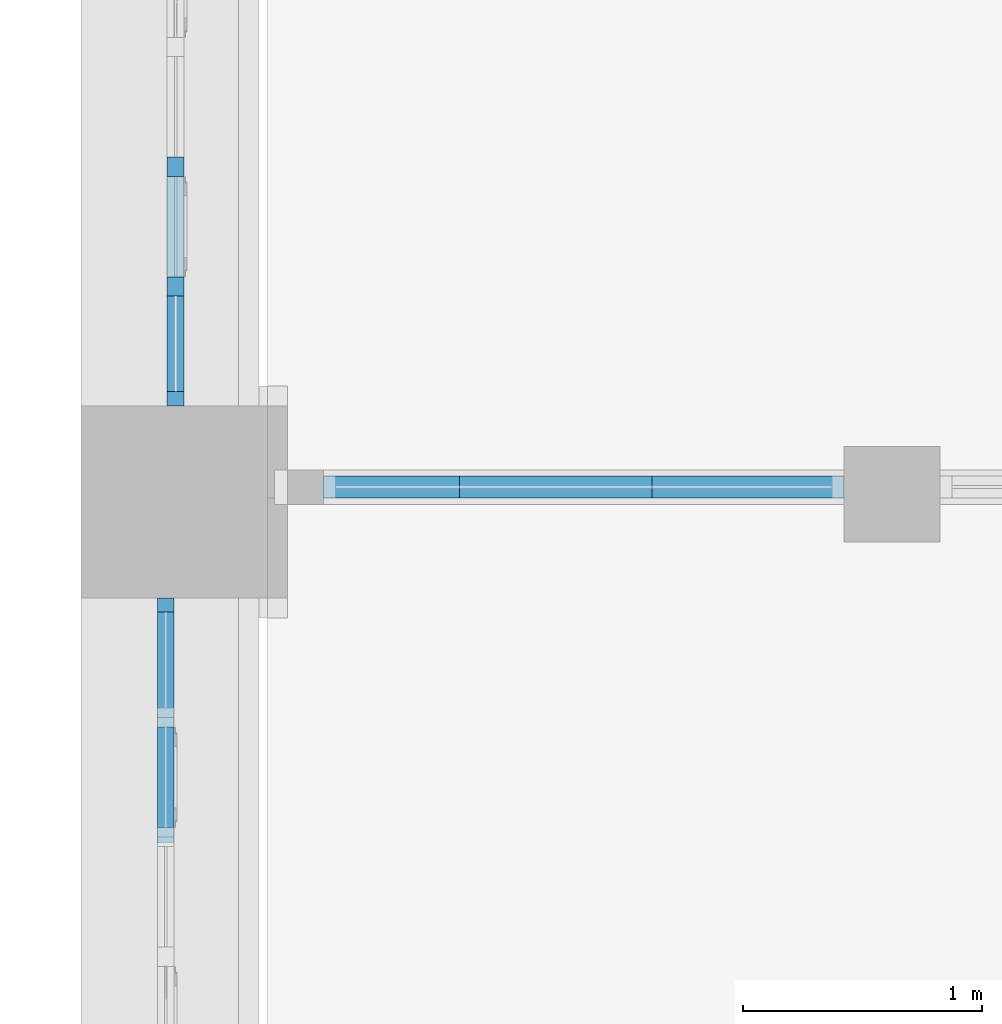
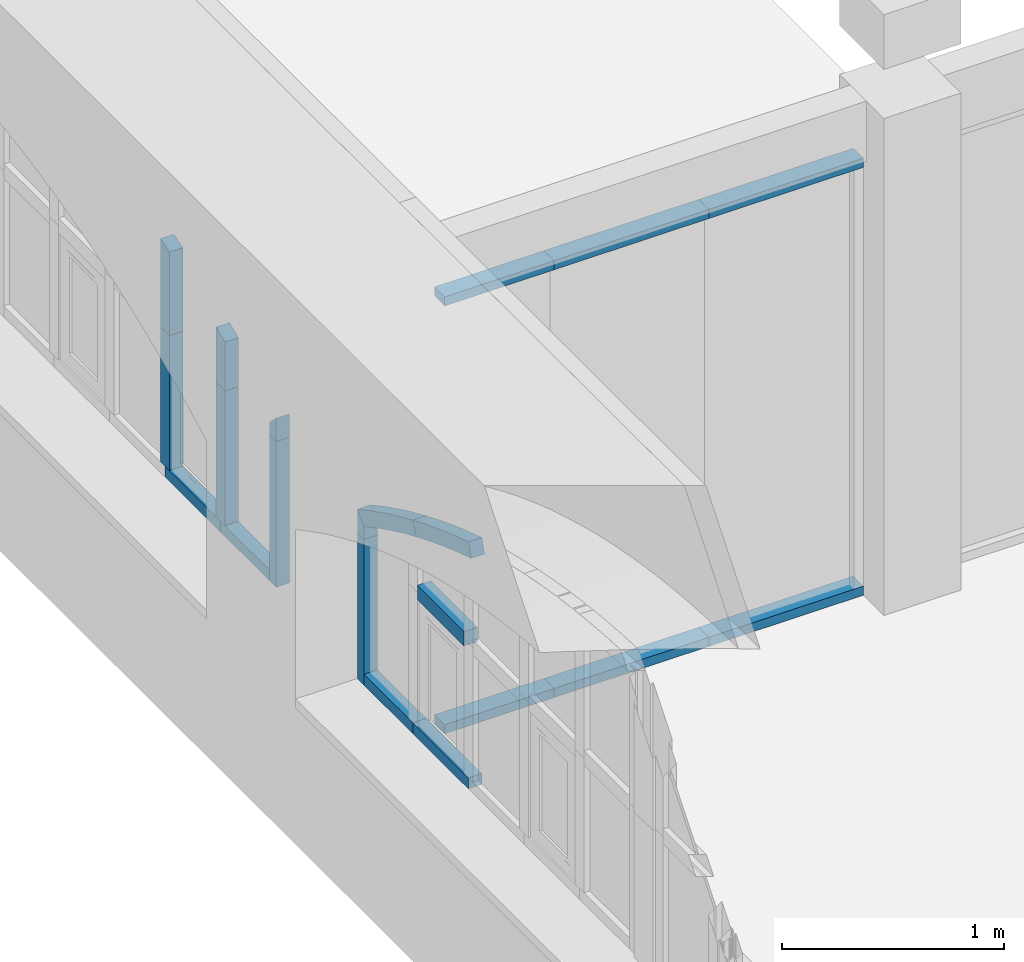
# One storey, part 17 of 32: 21 members, 3 elements without a shape of their own.
"""IFC2X3 building model written with IfcOpenShell, lengths in millimetres."""

from ifc_helpers import new_model, entity, si_unit, converted_unit, derived_unit, direction, frame, frame_2d, origin, place, context, subcontext, project, spatial, polyline, circle_curve, parameter, trimmed, segment, composite_curve, rectangle, outline, extrude, source, transform, mapped, material, type_object, type_shapes, element, aggregate, save


model = new_model("IFC2X3")

# Units and contexts
model_context = context("Model", 3, precision=0.01, world=origin(), true_north=direction((6.123031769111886e-17, 1.0)))
body_context = subcontext(model_context, "Body", "Model", "MODEL_VIEW")
ifc_project = project(units=[si_unit("LENGTHUNIT", "METRE", prefix="MILLI"), si_unit("AREAUNIT", "SQUARE_METRE"), si_unit("VOLUMEUNIT", "CUBIC_METRE"), converted_unit("PLANEANGLEUNIT", "DEGREE", entity("IfcPlaneAngleMeasure", 0.017453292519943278), si_unit("PLANEANGLEUNIT", "RADIAN"), dimensions=[0, 0, 0, 0, 0, 0, 0]), si_unit("MASSUNIT", "GRAM", prefix="KILO"), derived_unit("MASSDENSITYUNIT", [(si_unit("MASSUNIT", "GRAM", prefix="KILO"), 1), (si_unit("LENGTHUNIT", "METRE"), -3)]), derived_unit("IONCONCENTRATIONUNIT", [(si_unit("MASSUNIT", "GRAM", prefix="KILO"), 1), (si_unit("LENGTHUNIT", "METRE"), -3)]), derived_unit("MOMENTOFINERTIAUNIT", [(si_unit("LENGTHUNIT", "METRE"), 4)]), si_unit("TIMEUNIT", "SECOND"), si_unit("FREQUENCYUNIT", "HERTZ"), si_unit("THERMODYNAMICTEMPERATUREUNIT", "DEGREE_CELSIUS"), derived_unit("THERMALTRANSMITTANCEUNIT", [(si_unit("MASSUNIT", "GRAM", prefix="KILO"), 1), (si_unit("THERMODYNAMICTEMPERATUREUNIT", "KELVIN"), -1), (si_unit("TIMEUNIT", "SECOND"), -3)]), derived_unit("THERMALCONDUCTANCEUNIT", [(si_unit("MASSUNIT", "GRAM", prefix="KILO"), 1), (si_unit("THERMODYNAMICTEMPERATUREUNIT", "KELVIN"), -1), (si_unit("TIMEUNIT", "SECOND"), -3), (si_unit("LENGTHUNIT", "METRE"), 1)]), derived_unit("VOLUMETRICFLOWRATEUNIT", [(si_unit("LENGTHUNIT", "METRE", prefix="DECI"), 3), (si_unit("TIMEUNIT", "SECOND"), -1)]), derived_unit("MASSFLOWRATEUNIT", [(si_unit("MASSUNIT", "GRAM", prefix="KILO"), 1), (si_unit("TIMEUNIT", "SECOND"), -1)]), derived_unit("ROTATIONALFREQUENCYUNIT", [(si_unit("TIMEUNIT", "SECOND"), -1)]), si_unit("ELECTRICCURRENTUNIT", "AMPERE"), si_unit("ELECTRICVOLTAGEUNIT", "VOLT"), si_unit("POWERUNIT", "WATT"), si_unit("FORCEUNIT", "NEWTON", prefix="KILO"), si_unit("ILLUMINANCEUNIT", "LUX"), si_unit("LUMINOUSFLUXUNIT", "LUMEN"), si_unit("LUMINOUSINTENSITYUNIT", "CANDELA"), si_unit("ENERGYUNIT", "JOULE"), derived_unit("USERDEFINED", [(si_unit("MASSUNIT", "GRAM", prefix="KILO"), -1), (si_unit("LENGTHUNIT", "METRE"), -2), (si_unit("TIMEUNIT", "SECOND"), 3), (si_unit("LUMINOUSFLUXUNIT", "LUMEN"), 1)]), derived_unit("USERDEFINED", [(si_unit("MASSUNIT", "GRAM", prefix="KILO"), 1), (si_unit("TIMEUNIT", "SECOND"), -3), (si_unit("LENGTHUNIT", "METRE"), 3), (si_unit("ELECTRICCURRENTUNIT", "AMPERE"), -2)]), derived_unit("SOUNDPOWERUNIT", [(si_unit("MASSUNIT", "GRAM", prefix="KILO"), 1), (si_unit("TIMEUNIT", "SECOND"), -3), (si_unit("LENGTHUNIT", "METRE"), 2)]), derived_unit("SOUNDPRESSUREUNIT", [(si_unit("MASSUNIT", "GRAM", prefix="KILO"), 1), (si_unit("LENGTHUNIT", "METRE"), -1), (si_unit("TIMEUNIT", "SECOND"), -2)]), derived_unit("LINEARVELOCITYUNIT", [(si_unit("LENGTHUNIT", "METRE"), 1), (si_unit("TIMEUNIT", "SECOND"), -1)]), si_unit("PRESSUREUNIT", "PASCAL"), derived_unit("USERDEFINED", [(si_unit("MASSUNIT", "GRAM", prefix="KILO"), 1), (si_unit("LENGTHUNIT", "METRE"), -2), (si_unit("TIMEUNIT", "SECOND"), -2)]), derived_unit("LINEARFORCEUNIT", [(si_unit("MASSUNIT", "GRAM", prefix="KILO"), 1), (si_unit("TIMEUNIT", "SECOND"), -2)]), derived_unit("PLANARFORCEUNIT", [(si_unit("MASSUNIT", "GRAM", prefix="KILO"), 1), (si_unit("LENGTHUNIT", "METRE"), -1), (si_unit("TIMEUNIT", "SECOND"), -2)]), derived_unit("SPECIFICHEATCAPACITYUNIT", [(si_unit("THERMODYNAMICTEMPERATUREUNIT", "KELVIN"), -1), (si_unit("LENGTHUNIT", "METRE"), 2), (si_unit("TIMEUNIT", "SECOND"), -2)]), derived_unit("HEATFLUXDENSITYUNIT", [(si_unit("MASSUNIT", "GRAM", prefix="KILO"), 1), (si_unit("TIMEUNIT", "SECOND"), -3)]), derived_unit("HEATINGVALUEUNIT", [(si_unit("LENGTHUNIT", "METRE"), 2), (si_unit("TIMEUNIT", "SECOND"), -2)]), derived_unit("VAPORPERMEABILITYUNIT", [(si_unit("LENGTHUNIT", "METRE"), -1), (si_unit("TIMEUNIT", "SECOND"), 1)]), derived_unit("DYNAMICVISCOSITYUNIT", [(si_unit("MASSUNIT", "GRAM", prefix="KILO"), 1), (si_unit("TIMEUNIT", "SECOND"), -1), (si_unit("LENGTHUNIT", "METRE"), -1)]), derived_unit("THERMALEXPANSIONCOEFFICIENTUNIT", [(si_unit("THERMODYNAMICTEMPERATUREUNIT", "KELVIN"), -1)]), derived_unit("MODULUSOFELASTICITYUNIT", [(si_unit("MASSUNIT", "GRAM", prefix="KILO"), 1), (si_unit("LENGTHUNIT", "METRE"), -1), (si_unit("TIMEUNIT", "SECOND"), -2)]), derived_unit("ISOTHERMALMOISTURECAPACITYUNIT", [(si_unit("MASSUNIT", "GRAM", prefix="KILO"), -1), (si_unit("LENGTHUNIT", "METRE"), 3)]), derived_unit("MOISTUREDIFFUSIVITYUNIT", [(si_unit("TIMEUNIT", "SECOND"), -1), (si_unit("LENGTHUNIT", "METRE"), 2)]), derived_unit("MASSPERLENGTHUNIT", [(si_unit("MASSUNIT", "GRAM", prefix="KILO"), 1), (si_unit("LENGTHUNIT", "METRE"), -1)]), derived_unit("THERMALRESISTANCEUNIT", [(si_unit("MASSUNIT", "GRAM", prefix="KILO"), -1), (si_unit("TIMEUNIT", "SECOND"), 3), (si_unit("THERMODYNAMICTEMPERATUREUNIT", "KELVIN"), 1)]), derived_unit("ACCELERATIONUNIT", [(si_unit("LENGTHUNIT", "METRE"), 1), (si_unit("TIMEUNIT", "SECOND"), -2)]), derived_unit("ANGULARVELOCITYUNIT", [(si_unit("TIMEUNIT", "SECOND"), -1), (si_unit("PLANEANGLEUNIT", "RADIAN"), 1)]), derived_unit("LINEARSTIFFNESSUNIT", [(si_unit("MASSUNIT", "GRAM", prefix="KILO"), 1), (si_unit("TIMEUNIT", "SECOND"), -2)]), derived_unit("WARPINGCONSTANTUNIT", [(si_unit("LENGTHUNIT", "METRE"), 6)]), derived_unit("LINEARMOMENTUNIT", [(si_unit("MASSUNIT", "GRAM", prefix="KILO"), 1), (si_unit("LENGTHUNIT", "METRE"), 1), (si_unit("TIMEUNIT", "SECOND"), -2)]), derived_unit("TORQUEUNIT", [(si_unit("MASSUNIT", "GRAM", prefix="KILO"), 1), (si_unit("LENGTHUNIT", "METRE"), 2), (si_unit("TIMEUNIT", "SECOND"), -2)])], contexts=[model_context])

# Site, building, storey
site_placement = place(None, origin())
site = spatial("IfcSite", under=ifc_project, at=site_placement, Name="Default", CompositionType="ELEMENT")
building_placement = place(site_placement, origin())
building = spatial("IfcBuilding", under=site, at=building_placement, Name="Eesti Rahvusraamatukogu hoone renoveerimise projekteerimistööd", CompositionType="ELEMENT")
storey_placement = place(building_placement, frame((0.0, 0.0, 4950.000000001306)))
storey = spatial("IfcBuildingStorey", under=building, at=storey_placement, Name="2. korrus", CompositionType="ELEMENT", Elevation=4950.000000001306)

# Curtain wall, members
curtain_wall_type_1 = type_object("IfcCurtainWallType", Name="Curtain Wall:VLS Klaasvahesein profiilita 38db", PredefinedType="NOTDEFINED")
curtain_wall_1_placement = place(storey_placement, frame((0.0, 0.0, -4950.000000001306)))
curtain_wall_1 = element("IfcCurtainWall", 1, at=curtain_wall_1_placement, inside=storey, type_object=curtain_wall_type_1, Name="Curtain Wall:VLS Klaasvahesein profiilita 38db", ObjectType="Curtain Wall:VLS Klaasvahesein profiilita 38db")
ifc_material_1 = material(Name="Aluminum")
member_type_1 = type_object("IfcMemberType", Name="Rectangular Mullion:50mm x 92mm", PredefinedType="MULLION", material=ifc_material_1)
shared_shape_1 = source(origin(), body_context, "Body", "SweptSolid", [
    extrude(rectangle(XDim=50.0, YDim=92.0, at=frame_2d((0.0, 3.552713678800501e-15), x_axis=(1.0, 0.0))), frame((-25.0, 0.0, -803.3333334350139), z_axis=(0.0, 0.0, 1.0), x_axis=(-1.0, 0.0, 0.0)), (0.0, 0.0, 1.0), 803.3333334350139),
])
type_shapes(member_type_1, [shared_shape_1])
member_1_placement = place(curtain_wall_1_placement, frame((-33590.0, 42420.0, 7350.0), z_axis=(1.0, 0.0, 0.0), x_axis=(0.0, 0.0, 1.0)))
member_1 = element("IfcMember", 2, at=member_1_placement, type_object=member_type_1, material=ifc_material_1, Name="Rectangular Mullion:50mm x 92mm", ObjectType="Rectangular Mullion:50mm x 92mm", context=body_context, shape_type="MappedRepresentation", body=[
    mapped(shared_shape_1, transform((0.0, 0.0, 0.0), scale=1.0)),
])
member_type_2 = type_object("IfcMemberType", Name="Rectangular Mullion:50mm x 92mm", PredefinedType="MULLION", material=ifc_material_1)
shared_shape_2 = source(origin(), body_context, "Body", "SweptSolid", [
    extrude(rectangle(XDim=50.0, YDim=92.0, at=frame_2d((0.0, 3.552713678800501e-15), x_axis=(1.0, 0.0))), frame((-25.0, 0.0, -568.8333334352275), z_axis=(0.0, 0.0, 1.0), x_axis=(-1.0, 0.0, 0.0)), (0.0, 0.0, 1.0), 568.8333334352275),
])
type_shapes(member_type_2, [shared_shape_2])
member_2_placement = place(curtain_wall_1_placement, frame((-35196.666666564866, 42420.0, 7350.0), z_axis=(1.0, 0.0, 0.0), x_axis=(0.0, 0.0, 1.0)))
member_2 = element("IfcMember", 3, at=member_2_placement, type_object=member_type_2, material=ifc_material_1, Name="Rectangular Mullion:50mm x 92mm", ObjectType="Rectangular Mullion:50mm x 92mm", context=body_context, shape_type="MappedRepresentation", body=[
    mapped(shared_shape_2, transform((0.0, 0.0, 0.0), scale=1.0)),
])
member_type_3 = type_object("IfcMemberType", Name="Rectangular Mullion:50mm x 92mm", PredefinedType="MULLION", material=ifc_material_1)
shared_shape_3 = source(origin(), body_context, "Body", "SweptSolid", [
    extrude(rectangle(XDim=50.0, YDim=92.0, at=frame_2d((0.0, 3.552713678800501e-15), x_axis=(1.0, 0.0))), frame((-25.0, 0.0, -803.3333331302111), z_axis=(0.0, 0.0, 1.0), x_axis=(-1.0, 0.0, 0.0)), (0.0, 0.0, 1.0), 803.3333331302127),
])
type_shapes(member_type_3, [shared_shape_3])
member_3_placement = place(curtain_wall_1_placement, frame((-34393.33333343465, 42420.0, 7350.0), z_axis=(1.0, 0.0, 0.0), x_axis=(0.0, 0.0, 1.0)))
member_3 = element("IfcMember", 4, at=member_3_placement, type_object=member_type_3, material=ifc_material_1, Name="Rectangular Mullion:50mm x 92mm", ObjectType="Rectangular Mullion:50mm x 92mm", context=body_context, shape_type="MappedRepresentation", body=[
    mapped(shared_shape_3, transform((0.0, 0.0, 0.0), scale=1.0)),
])
member_type_4 = type_object("IfcMemberType", Name="Rectangular Mullion:50mm x 92mm", PredefinedType="MULLION", material=ifc_material_1)
shared_shape_4 = source(origin(), body_context, "Body", "SweptSolid", [
    extrude(rectangle(XDim=50.0, YDim=92.0, at=frame_2d((0.0, 3.552713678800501e-15), x_axis=(1.0, 0.0))), frame((-25.0, 0.0, -568.8333334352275), z_axis=(0.0, 0.0, 1.0), x_axis=(-1.0, 0.0, 0.0)), (0.0, 0.0, 1.0), 568.8333334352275),
])
type_shapes(member_type_4, [shared_shape_4])
member_4_placement = place(curtain_wall_1_placement, frame((-35765.50000000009, 42420.0, 4950.0), z_axis=(-1.0, 0.0, 0.0), x_axis=(0.0, 0.0, -1.0)))
member_4 = element("IfcMember", 5, at=member_4_placement, type_object=member_type_4, material=ifc_material_1, Name="Rectangular Mullion:50mm x 92mm", ObjectType="Rectangular Mullion:50mm x 92mm", context=body_context, shape_type="MappedRepresentation", body=[
    mapped(shared_shape_4, transform((0.0, 0.0, 0.0), scale=1.0)),
])
member_type_5 = type_object("IfcMemberType", Name="Rectangular Mullion:50mm x 92mm", PredefinedType="MULLION", material=ifc_material_1)
shared_shape_5 = source(origin(), body_context, "Body", "SweptSolid", [
    extrude(rectangle(XDim=50.0, YDim=92.0, at=frame_2d((0.0, 3.552713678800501e-15), x_axis=(1.0, 0.0))), frame((-25.0, 0.0, -803.3333331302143), z_axis=(0.0, 0.0, 1.0), x_axis=(-1.0, 0.0, 0.0)), (0.0, 0.0, 1.0), 803.3333331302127),
])
type_shapes(member_type_5, [shared_shape_5])
member_5_placement = place(curtain_wall_1_placement, frame((-35196.666666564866, 42420.0, 4950.0), z_axis=(-1.0, 0.0, 0.0), x_axis=(0.0, 0.0, -1.0)))
member_5 = element("IfcMember", 6, at=member_5_placement, type_object=member_type_5, material=ifc_material_1, Name="Rectangular Mullion:50mm x 92mm", ObjectType="Rectangular Mullion:50mm x 92mm", context=body_context, shape_type="MappedRepresentation", body=[
    mapped(shared_shape_5, transform((0.0, 0.0, 0.0), scale=1.0)),
])
member_type_6 = type_object("IfcMemberType", Name="Rectangular Mullion:50mm x 92mm", PredefinedType="MULLION", material=ifc_material_1)
shared_shape_6 = source(origin(), body_context, "Body", "SweptSolid", [
    extrude(rectangle(XDim=50.0, YDim=92.0, at=frame_2d((0.0, 3.552713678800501e-15), x_axis=(1.0, 0.0))), frame((-25.0, 0.0, -803.3333334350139), z_axis=(0.0, 0.0, 1.0), x_axis=(-1.0, 0.0, 0.0)), (0.0, 0.0, 1.0), 803.3333334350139),
])
type_shapes(member_type_6, [shared_shape_6])
member_6_placement = place(curtain_wall_1_placement, frame((-34393.33333343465, 42420.0, 4950.0), z_axis=(-1.0, 0.0, 0.0), x_axis=(0.0, 0.0, -1.0)))
member_6 = element("IfcMember", 7, at=member_6_placement, type_object=member_type_6, material=ifc_material_1, Name="Rectangular Mullion:50mm x 92mm", ObjectType="Rectangular Mullion:50mm x 92mm", context=body_context, shape_type="MappedRepresentation", body=[
    mapped(shared_shape_6, transform((0.0, 0.0, 0.0), scale=1.0)),
])
aggregate(curtain_wall_1, [member_1, member_2, member_3, member_4, member_5, member_6])

curtain_wall_type_2 = type_object("IfcCurtainWallType", Name="Curtain Wall:Ak-04", PredefinedType="NOTDEFINED")
curtain_wall_2_placement = place(storey_placement, frame((0.0, 0.0, -4950.000000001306)))
curtain_wall_2 = element("IfcCurtainWall", 8, at=curtain_wall_2_placement, inside=storey, type_object=curtain_wall_type_2, Name="Curtain Wall:Ak-04", ObjectType="Curtain Wall:Ak-04")
ifc_material_2 = material(Name="LUMION_dark steel window frames")
member_type_7 = type_object("IfcMemberType", Name="Rectangular Mullion:NEW 80x70mm", PredefinedType="MULLION", material=ifc_material_2)
shared_shape_7 = source(origin(), body_context, "Body", "SweptSolid", [
    extrude(rectangle(XDim=80.0, YDim=70.0, at=frame_2d((0.0, -3.552713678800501e-15), x_axis=(1.0, 0.0))), frame((0.0, 0.0, -420.0), z_axis=(0.0, 0.0, 1.0), x_axis=(-1.0, 0.0, 0.0)), (0.0, 0.0, 1.0), 419.999999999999),
])
type_shapes(member_type_7, [shared_shape_7])
member_7_placement = place(curtain_wall_2_placement, frame((-36425.0, 40997.50000000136, 6550.000000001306), z_axis=(0.0, -1.0, 0.0), x_axis=(0.0, 0.0, 1.0)))
member_7 = element("IfcMember", 9, at=member_7_placement, type_object=member_type_7, material=ifc_material_2, Name="Rectangular Mullion:NEW 80x70mm", ObjectType="Rectangular Mullion:NEW 80x70mm", context=body_context, shape_type="MappedRepresentation", body=[
    mapped(shared_shape_7, transform((0.0, 0.0, 0.0), scale=1.0)),
])
member_type_8 = type_object("IfcMemberType", Name="Rectangular Mullion:NEW 60x70mm", PredefinedType="MULLION", material=ifc_material_2)
shared_shape_8 = source(origin(), body_context, "Body", "SweptSolid", [
    extrude(rectangle(XDim=60.0, YDim=70.0, at=frame_2d((0.0, 3.552713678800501e-15), x_axis=(1.0, 0.0))), frame((-30.0, 0.0, -500.0), z_axis=(0.0, 0.0, 1.0), x_axis=(-1.0, 0.0, 0.0)), (0.0, 0.0, 1.0), 499.999999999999),
])
type_shapes(member_type_8, [shared_shape_8])
member_8_placement = place(curtain_wall_2_placement, frame((-36425.0, 41457.50000000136, 5750.000000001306), z_axis=(0.0, 1.0, 0.0), x_axis=(0.0, 0.0, -1.0)))
member_8 = element("IfcMember", 10, at=member_8_placement, type_object=member_type_8, material=ifc_material_2, Name="Rectangular Mullion:NEW 60x70mm", ObjectType="Rectangular Mullion:NEW 60x70mm", context=body_context, shape_type="MappedRepresentation", body=[
    mapped(shared_shape_8, transform((0.0, 0.0, 0.0), scale=1.0)),
])

curtain_wall_3_placement = place(storey_placement, frame((0.0, 0.0, -4950.000000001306)))
curtain_wall_3 = element("IfcCurtainWall", 11, at=curtain_wall_3_placement, inside=storey, type_object=curtain_wall_type_2, Name="Curtain Wall:Ak-04", ObjectType="Curtain Wall:Ak-04")
member_9_placement = place(curtain_wall_3_placement, frame((-36383.9999999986, 43759.00000000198, 5750.000000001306), z_axis=(0.0, 1.0, 0.0), x_axis=(0.0, 0.0, -1.0)))
member_9 = element("IfcMember", 12, at=member_9_placement, type_object=member_type_8, material=ifc_material_2, Name="Rectangular Mullion:NEW 60x70mm", ObjectType="Rectangular Mullion:NEW 60x70mm", context=body_context, shape_type="MappedRepresentation", body=[
    mapped(shared_shape_8, transform((0.0, 0.0, 0.0), scale=1.0)),
])
member_type_9 = type_object("IfcMemberType", Name="Rectangular Mullion:NEW 60x70mm", PredefinedType="MULLION", material=ifc_material_2)
shared_shape_9 = source(origin(), body_context, "Body", "SweptSolid", [
    extrude(rectangle(XDim=60.0, YDim=70.0, at=frame_2d((0.0, 3.552713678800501e-15), x_axis=(1.0, 0.0))), frame((-30.0, 0.0, -440.0), z_axis=(0.0, 0.0, 1.0), x_axis=(-1.0, 0.0, 0.0)), (0.0, 0.0, 1.0), 439.9999999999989),
])
type_shapes(member_type_9, [shared_shape_9])
member_10_placement = place(curtain_wall_3_placement, frame((-36383.9999999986, 43259.00000000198, 5750.000000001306), z_axis=(0.0, 1.0, 0.0), x_axis=(0.0, 0.0, -1.0)))
member_10 = element("IfcMember", 13, at=member_10_placement, type_object=member_type_9, material=ifc_material_2, Name="Rectangular Mullion:NEW 60x70mm", ObjectType="Rectangular Mullion:NEW 60x70mm", context=body_context, shape_type="MappedRepresentation", body=[
    mapped(shared_shape_9, transform((0.0, 0.0, 0.0), scale=1.0)),
])

# Member
member_type_10 = type_object("IfcMemberType", Name="Rectangular Mullion:NEW 60x70mm", PredefinedType="MULLION", material=ifc_material_2)
shared_shape_10 = source(origin(), body_context, "Body", "SweptSolid", [
    extrude(rectangle(XDim=60.0, YDim=70.0, at=frame_2d((0.0, 3.552713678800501e-15), x_axis=(1.0, 0.0))), frame((-30.0, 0.0, -440.0), z_axis=(0.0, 0.0, 1.0), x_axis=(-1.0, 0.0, 0.0)), (0.0, 0.0, 1.0), 439.9999999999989),
])
type_shapes(member_type_10, [shared_shape_10])
member_11_placement = place(curtain_wall_2_placement, frame((-36425.0, 41897.50000000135, 5750.000000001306), z_axis=(0.0, 1.0, 0.0), x_axis=(0.0, 0.0, -1.0)))
member_11 = element("IfcMember", 14, at=member_11_placement, type_object=member_type_10, material=ifc_material_2, Name="Rectangular Mullion:NEW 60x70mm", ObjectType="Rectangular Mullion:NEW 60x70mm", context=body_context, shape_type="MappedRepresentation", body=[
    mapped(shared_shape_10, transform((0.0, 0.0, 0.0), scale=1.0)),
])

member_type_11 = type_object("IfcMemberType", Name="Rectangular Mullion:NEW 80x70mm", PredefinedType="MULLION", material=ifc_material_2)
shared_shape_11 = source(origin(), body_context, "Body", "SweptSolid", [
    extrude(outline(composite_curve([segment(polyline([(-174.30772999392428, -46.24561306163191), (94.42385048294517, -46.24561306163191)]), True, "CONTINUOUS"), segment(trimmed(circle_curve(frame_2d((-4754.083849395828, 2093.7543869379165), x_axis=(0.8754595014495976, -0.48329148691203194)), 5299.776119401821), [parameter(5.085231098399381)], [parameter(5.924265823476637)], True, "PARAMETER"), True, "CONTINUOUS"), segment(trimmed(circle_curve(frame_2d((-4754.0838493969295, 2093.7543869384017), x_axis=(0.9206661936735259, -0.3903508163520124)), 5299.776119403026), [parameter(0.0)], [parameter(0.10296582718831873)], True, "PARAMETER"), True, "CONTINUOUS"), segment(polyline([(128.9507517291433, 33.75438693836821), (-174.30772999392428, 33.75438693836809)]), True, "CONTINUOUS"), segment(polyline([(-174.30772999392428, 33.75438693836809), (-174.30772999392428, -46.24561306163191)]), True, "CONTINUOUS")], self_intersect=False)), frame((-6.245613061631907, -35.0, -174.30772999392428), z_axis=(0.0, 1.0, 0.0), x_axis=(0.0, 0.0, -1.0)), (0.0, 0.0, 1.0), 70.00000000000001),
])
type_shapes(member_type_11, [shared_shape_11])
member_12_placement = place(curtain_wall_3_placement, frame((-36383.9999999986, 43259.00000000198, 6550.000000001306), z_axis=(0.0, 0.0, -1.0), x_axis=(0.0, -1.0, 0.0)))
member_12 = element("IfcMember", 15, at=member_12_placement, type_object=member_type_11, material=ifc_material_2, Name="Rectangular Mullion:NEW 80x70mm", ObjectType="Rectangular Mullion:NEW 80x70mm", context=body_context, shape_type="MappedRepresentation", body=[
    mapped(shared_shape_11, transform((0.0, 0.0, 0.0), scale=1.0)),
])

member_type_12 = type_object("IfcMemberType", Name="Rectangular Mullion:NEW 80x70mm", PredefinedType="MULLION", material=ifc_material_2)
shared_shape_12 = source(origin(), body_context, "Body", "SweptSolid", [
    extrude(rectangle(XDim=80.0, YDim=70.0, at=frame_2d((0.0, -3.552713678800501e-15), x_axis=(1.0, 0.0))), frame((0.0, 0.0, -740.0), z_axis=(0.0, 0.0, 1.0), x_axis=(-1.0, 0.0, 0.0)), (0.0, 0.0, 1.0), 740.0),
])
type_shapes(member_type_12, [shared_shape_12])
member_13_placement = place(curtain_wall_3_placement, frame((-36383.9999999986, 43259.00000000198, 5810.000000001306), z_axis=(0.0, 0.0, -1.0), x_axis=(0.0, -1.0, 0.0)))
member_13 = element("IfcMember", 16, at=member_13_placement, type_object=member_type_12, material=ifc_material_2, Name="Rectangular Mullion:NEW 80x70mm", ObjectType="Rectangular Mullion:NEW 80x70mm", context=body_context, shape_type="MappedRepresentation", body=[
    mapped(shared_shape_12, transform((0.0, 0.0, 0.0), scale=1.0)),
])

member_14_placement = place(curtain_wall_3_placement, frame((-36383.9999999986, 43759.00000000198, 5810.000000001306), z_axis=(0.0, 0.0, -1.0), x_axis=(0.0, -1.0, 0.0)))
member_14 = element("IfcMember", 17, at=member_14_placement, type_object=member_type_12, material=ifc_material_2, Name="Rectangular Mullion:NEW 80x70mm", ObjectType="Rectangular Mullion:NEW 80x70mm", context=body_context, shape_type="MappedRepresentation", body=[
    mapped(shared_shape_12, transform((0.0, 0.0, 0.0), scale=1.0)),
])

member_type_13 = type_object("IfcMemberType", Name="Rectangular Mullion:NEW 80x70mm", PredefinedType="MULLION", material=ifc_material_2)
shared_shape_13 = source(origin(), body_context, "Body", "SweptSolid", [
    extrude(outline(composite_curve([segment(polyline([(-285.0515721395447, -44.75856233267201), (174.81782335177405, -44.75856233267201)]), True, "CONTINUOUS"), segment(trimmed(circle_curve(frame_2d((-4864.82769154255, 1595.2414376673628), x_axis=(0.9206661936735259, -0.3903508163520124)), 5299.776119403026), [parameter(4.950420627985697)], [parameter(5.674213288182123)], True, "PARAMETER"), True, "CONTINUOUS"), segment(trimmed(circle_curve(frame_2d((-4864.827691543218, 1595.2414376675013), x_axis=(0.9547498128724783, -0.297410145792)), 5299.776119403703), [parameter(0.0)], [parameter(0.18342876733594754)], True, "PARAMETER"), True, "CONTINUOUS"), segment(polyline([(200.15275420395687, 35.24143766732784), (-285.0515721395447, 35.24143766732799)]), True, "CONTINUOUS"), segment(polyline([(-285.0515721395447, 35.24143766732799), (-285.0515721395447, -44.75856233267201)]), True, "CONTINUOUS")], self_intersect=False)), frame((-4.758562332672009, -35.0, -285.0515721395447), z_axis=(0.0, 1.0, 0.0), x_axis=(0.0, 0.0, -1.0)), (0.0, 0.0, 1.0), 70.00000000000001),
])
type_shapes(member_type_13, [shared_shape_13])
member_15_placement = place(curtain_wall_3_placement, frame((-36383.9999999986, 43759.00000000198, 6550.000000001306), z_axis=(0.0, 0.0, -1.0), x_axis=(0.0, -1.0, 0.0)))
member_15 = element("IfcMember", 18, at=member_15_placement, type_object=member_type_13, material=ifc_material_2, Name="Rectangular Mullion:NEW 80x70mm", ObjectType="Rectangular Mullion:NEW 80x70mm", context=body_context, shape_type="MappedRepresentation", body=[
    mapped(shared_shape_13, transform((0.0, 0.0, 0.0), scale=1.0)),
])

member_type_14 = type_object("IfcMemberType", Name="Rectangular Mullion:NEW 60x70mm", PredefinedType="MULLION", material=ifc_material_2)
shared_shape_14 = source(origin(), body_context, "Body", "SweptSolid", [
    extrude(outline(polyline([(-50.43550252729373, -30.0), (79.56449747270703, -30.0), (21.306507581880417, 30.0), (-50.43550252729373, 30.0), (-50.43550252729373, -30.0)])), frame((-30.0, -35.0, -50.43550252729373), z_axis=(0.0, 1.0, 0.0), x_axis=(0.0, 0.0, -1.0)), (0.0, 0.0, 1.0), 70.00000000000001),
])
type_shapes(member_type_14, [shared_shape_14])
member_16_placement = place(curtain_wall_3_placement, frame((-36383.9999999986, 42759.000000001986, 6550.000000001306), z_axis=(0.0, 0.0, -1.0), x_axis=(0.0, -1.0, 0.0)))
member_16 = element("IfcMember", 19, at=member_16_placement, type_object=member_type_14, material=ifc_material_2, Name="Rectangular Mullion:NEW 60x70mm", ObjectType="Rectangular Mullion:NEW 60x70mm", context=body_context, shape_type="MappedRepresentation", body=[
    mapped(shared_shape_14, transform((0.0, 0.0, 0.0), scale=1.0)),
])

member_type_15 = type_object("IfcMemberType", Name="Rectangular Mullion:NEW 60x70mm", PredefinedType="MULLION", material=ifc_material_2)
shared_shape_15 = source(origin(), body_context, "Body", "SweptSolid", [
    extrude(rectangle(XDim=60.0, YDim=70.0, at=frame_2d((0.0, -3.552713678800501e-15), x_axis=(1.0, 0.0))), frame((-30.0, 0.0, -800.0), z_axis=(0.0, 0.0, 1.0), x_axis=(-1.0, 0.0, 0.0)), (0.0, 0.0, 1.0), 800.0),
])
type_shapes(member_type_15, [shared_shape_15])
member_17_placement = place(curtain_wall_3_placement, frame((-36383.9999999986, 42759.000000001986, 5750.000000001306), z_axis=(0.0, 0.0, -1.0), x_axis=(0.0, -1.0, 0.0)))
member_17 = element("IfcMember", 20, at=member_17_placement, type_object=member_type_15, material=ifc_material_2, Name="Rectangular Mullion:NEW 60x70mm", ObjectType="Rectangular Mullion:NEW 60x70mm", context=body_context, shape_type="MappedRepresentation", body=[
    mapped(shared_shape_15, transform((0.0, 0.0, 0.0), scale=1.0)),
])

aggregate(curtain_wall_3, [member_12, member_13, member_15, member_14, member_9, member_10, member_16, member_17])

member_type_16 = type_object("IfcMemberType", Name="Rectangular Mullion:NEW 60x70mm", PredefinedType="MULLION", material=ifc_material_2)
shared_shape_16 = source(origin(), body_context, "Body", "SweptSolid", [
    extrude(rectangle(XDim=60.0, YDim=70.0, at=frame_2d((0.0, -3.552713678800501e-15), x_axis=(1.0, 0.0))), frame((-30.0, 0.0, -800.0), z_axis=(0.0, 0.0, 1.0), x_axis=(-1.0, 0.0, 0.0)), (0.0, 0.0, 1.0), 800.0),
])
type_shapes(member_type_16, [shared_shape_16])
member_18_placement = place(curtain_wall_2_placement, frame((-36425.0, 41957.50000000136, 6550.000000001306), z_axis=(0.0, 0.0, 1.0), x_axis=(0.0, 1.0, 0.0)))
member_18 = element("IfcMember", 21, at=member_18_placement, type_object=member_type_16, material=ifc_material_2, Name="Rectangular Mullion:NEW 60x70mm", ObjectType="Rectangular Mullion:NEW 60x70mm", context=body_context, shape_type="MappedRepresentation", body=[
    mapped(shared_shape_16, transform((0.0, 0.0, 0.0), scale=1.0)),
])

member_type_17 = type_object("IfcMemberType", Name="Rectangular Mullion:NEW 60x70mm", PredefinedType="MULLION", material=ifc_material_2)
shared_shape_17 = source(origin(), body_context, "Body", "SweptSolid", [
    extrude(outline(polyline([(-79.56449747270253, -30.0), (50.43550252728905, -30.0), (50.43550252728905, 30.0), (-21.306507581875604, 30.0), (-79.56449747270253, -30.0)])), frame((-30.0, -35.0, -79.56449747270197), z_axis=(0.0, 1.0, 0.0), x_axis=(0.0, 0.0, -1.0)), (0.0, 0.0, 1.0), 70.00000000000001),
])
type_shapes(member_type_17, [shared_shape_17])
member_19_placement = place(curtain_wall_2_placement, frame((-36425.0, 41957.50000000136, 6680.000000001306), z_axis=(0.0, 0.0, 1.0), x_axis=(0.0, 1.0, 0.0)))
member_19 = element("IfcMember", 22, at=member_19_placement, type_object=member_type_17, material=ifc_material_2, Name="Rectangular Mullion:NEW 60x70mm", ObjectType="Rectangular Mullion:NEW 60x70mm", context=body_context, shape_type="MappedRepresentation", body=[
    mapped(shared_shape_17, transform((0.0, 0.0, 0.0), scale=1.0)),
])

member_type_18 = type_object("IfcMemberType", Name="Rectangular Mullion:NEW 80x70mm", PredefinedType="MULLION", material=ifc_material_2)
shared_shape_18 = source(origin(), body_context, "Body", "SweptSolid", [
    extrude(outline(composite_curve([segment(polyline([(-53.08199940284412, -263.97691053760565), (26.91800059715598, -263.97691053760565)]), True, "CONTINUOUS"), segment(trimmed(circle_curve(frame_2d((5326.694120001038, -263.97691053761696), x_axis=(-0.9951001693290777, 0.09887190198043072)), 5299.776119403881), [parameter(3.5622212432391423e-13)], [parameter(5.674213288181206)], True, "PARAMETER"), False, "CONTINUOUS"), segment(polyline([(52.886006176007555, 260.02203445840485), (-26.722007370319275, 267.9317866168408)]), True, "CONTINUOUS"), segment(trimmed(circle_curve(frame_2d((5326.694120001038, -263.97691053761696), x_axis=(-0.9951001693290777, 0.09887190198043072)), 5379.776119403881), [parameter(3.5622212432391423e-13)], [parameter(5.674213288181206)], True, "PARAMETER"), True, "CONTINUOUS")], self_intersect=False)), frame((-53.081999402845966, -35.0, -263.9769105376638), z_axis=(0.0, 1.0, 0.0), x_axis=(-0.9951001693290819, 0.0, 0.09887190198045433)), (0.0, 0.0, 1.0), 70.00000000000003),
])
type_shapes(member_type_18, [shared_shape_18])
member_20_placement = place(curtain_wall_2_placement, frame((-36425.0, 40957.50000000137, 7106.564123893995), z_axis=(0.0, -0.9547498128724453, 0.2974101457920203), x_axis=(0.0, 0.2974101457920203, 0.9547498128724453)))
member_20 = element("IfcMember", 23, at=member_20_placement, type_object=member_type_18, material=ifc_material_2, Name="Rectangular Mullion:NEW 80x70mm", ObjectType="Rectangular Mullion:NEW 80x70mm", context=body_context, shape_type="MappedRepresentation", body=[
    mapped(shared_shape_18, transform((0.0, 0.0, 0.0), scale=1.0)),
])

member_type_19 = type_object("IfcMemberType", Name="Rectangular Mullion:NEW 80x70mm", PredefinedType="MULLION", material=ifc_material_2)
shared_shape_19 = source(origin(), body_context, "Body", "SweptSolid", [
    extrude(outline(composite_curve([segment(trimmed(circle_curve(frame_2d((5012.255803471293, 1821.4299836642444), x_axis=(-0.9214052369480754, -0.3886031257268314)), 5379.776119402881), [parameter(354.0757341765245)], [parameter(359.99999999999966)], True, "PARAMETER"), True, "CONTINUOUS"), segment(polyline([(55.30191344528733, -269.16783204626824), (129.01433240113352, -238.07958198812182)]), True, "CONTINUOUS"), segment(trimmed(circle_curve(frame_2d((5012.255803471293, 1821.4299836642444), x_axis=(-0.9214052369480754, -0.3886031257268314)), 5299.776119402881), [parameter(354.33940494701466)], [parameter(359.99999999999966)], True, "PARAMETER"), False, "CONTINUOUS"), segment(polyline([(-50.313741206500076, 253.62370701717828), (-134.0025046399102, 253.62370701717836)]), True, "CONTINUOUS")], self_intersect=False)), frame((-53.64398821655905, -35.0, -269.50314648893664), z_axis=(0.0, -1.0, 0.0), x_axis=(-0.9214052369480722, 0.0, 0.3886031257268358)), (0.0, 0.0, -1.0), 70.00000000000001),
])
type_shapes(member_type_19, [shared_shape_19])
member_21_placement = place(curtain_wall_2_placement, frame((-36425.0, 41457.50000000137, 6923.201883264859), z_axis=(0.0, -0.920666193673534, 0.3903508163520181), x_axis=(0.0, 0.3903508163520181, 0.920666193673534)))
member_21 = element("IfcMember", 24, at=member_21_placement, type_object=member_type_19, material=ifc_material_2, Name="Rectangular Mullion:NEW 80x70mm", ObjectType="Rectangular Mullion:NEW 80x70mm", context=body_context, shape_type="MappedRepresentation", body=[
    mapped(shared_shape_19, transform((0.0, 0.0, 0.0), scale=1.0)),
])

aggregate(curtain_wall_2, [member_8, member_11, member_18, member_19, member_20, member_21, member_7])

save(model, "model.ifc")
